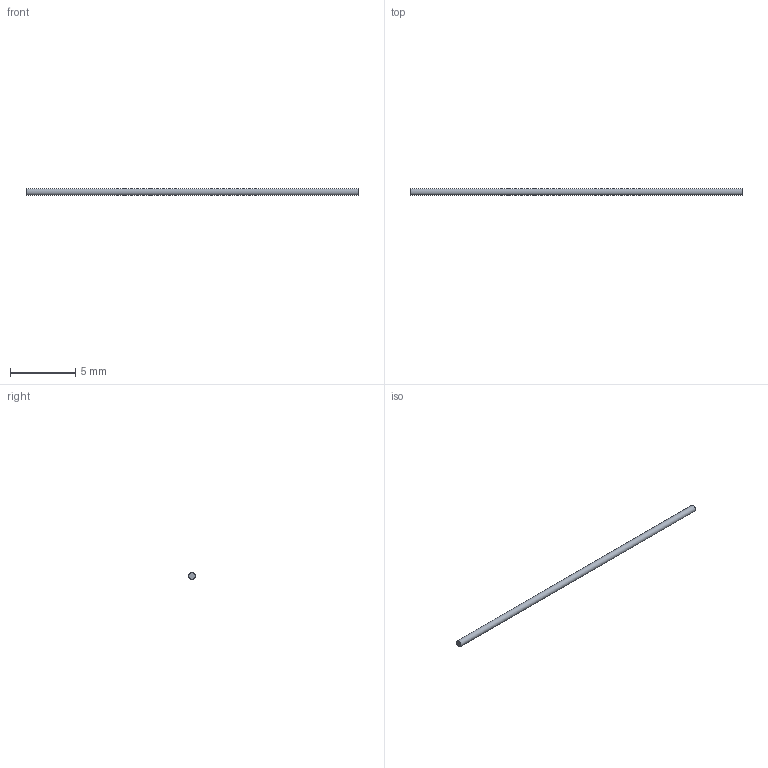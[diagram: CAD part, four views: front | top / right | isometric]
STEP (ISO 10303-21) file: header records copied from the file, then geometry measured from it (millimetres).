
FILE_DESCRIPTION(('FreeCAD Model'),'2;1');
FILE_NAME('Open CASCADE Shape Model','2026-04-07T19:07:43',('FreeCAD'),( 'FreeCAD'),'Open CASCADE STEP processor 7.8','FreeCAD','Unknown');
FILE_SCHEMA(('AUTOMOTIVE_DESIGN { 1 0 10303 214 1 1 1 1 }'));
Length unit declared in the file: millimetre
Products named in the file (1): Open CASCADE STEP translator 7.8 25
Bounding box: 25.4 x 0.5 x 0.5 mm (x, y, z)
Volume: 5 mm3; surface area: 40.3 mm2
Topology: 1 solids, 1 shells, 3 faces, 3 edges, 2 vertices
Faces by surface type: plane 2, cylinder 1
Full cylindrical faces by diameter (mm): 0.5 x1
Entity records: 69 total; most frequent: DIRECTION 13, CARTESIAN_POINT 9, AXIS2_PLACEMENT_3D 6, ORIENTED_EDGE 6, ADVANCED_FACE 3, FACE_BOUND 3, EDGE_LOOP 3, EDGE_CURVE 3
